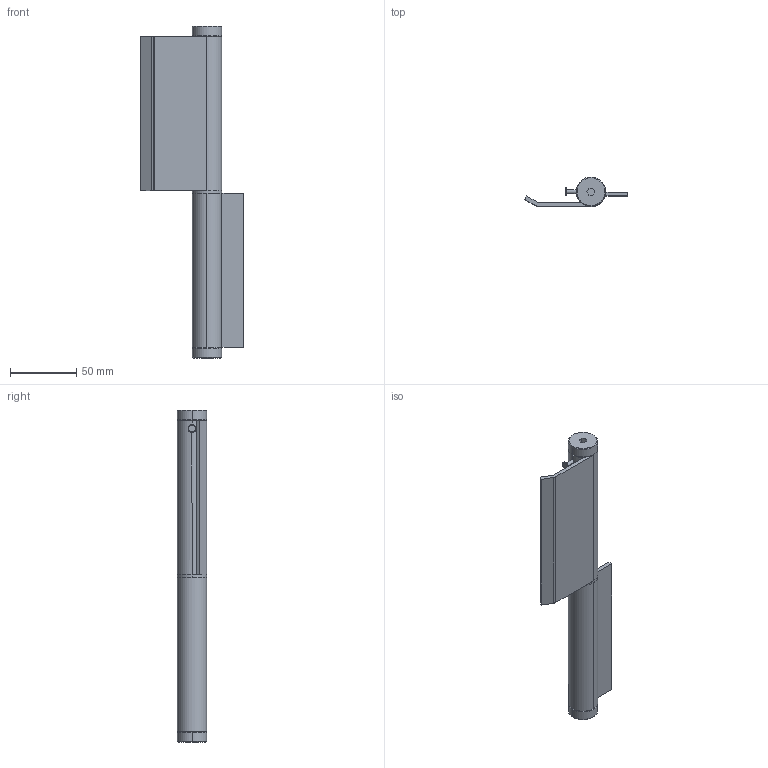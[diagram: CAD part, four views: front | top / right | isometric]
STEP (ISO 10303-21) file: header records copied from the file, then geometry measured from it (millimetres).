
FILE_DESCRIPTION((''),'2;1');
FILE_NAME('158.I-5224.stp','2014-08-18T16:36:15',(''),(''),'Mechanical Desktop 2006','Mechanical Desktop 2006',', , ');
FILE_SCHEMA(('CONFIG_CONTROL_DESIGN'));
Length unit declared in the file: millimetre
Products named in the file (7): 158.I-5224; TEIL2; TEIL3; TEIL4; TEIL5; TEIL6; TEIL7
Assembly tree (7 placements, depth 2):
  158.I-5224
    TEIL2
    TEIL3
    TEIL4
    TEIL5
    TEIL6  x2
    TEIL7
Bounding box: 77.51 x 22 x 250 mm (x, y, z)
Volume: 88841.5 mm3; surface area: 67203.7 mm2
Topology: 7 solids, 7 shells, 101 faces, 229 edges, 145 vertices
Faces by surface type: plane 41, cylinder 40, cone 20
Entity records: 2630 total; most frequent: CARTESIAN_POINT 529, DIRECTION 442, ORIENTED_EDGE 374, EDGE_CURVE 187, AXIS2_PLACEMENT_3D 171, VERTEX_POINT 119, VECTOR 100, LINE 100
